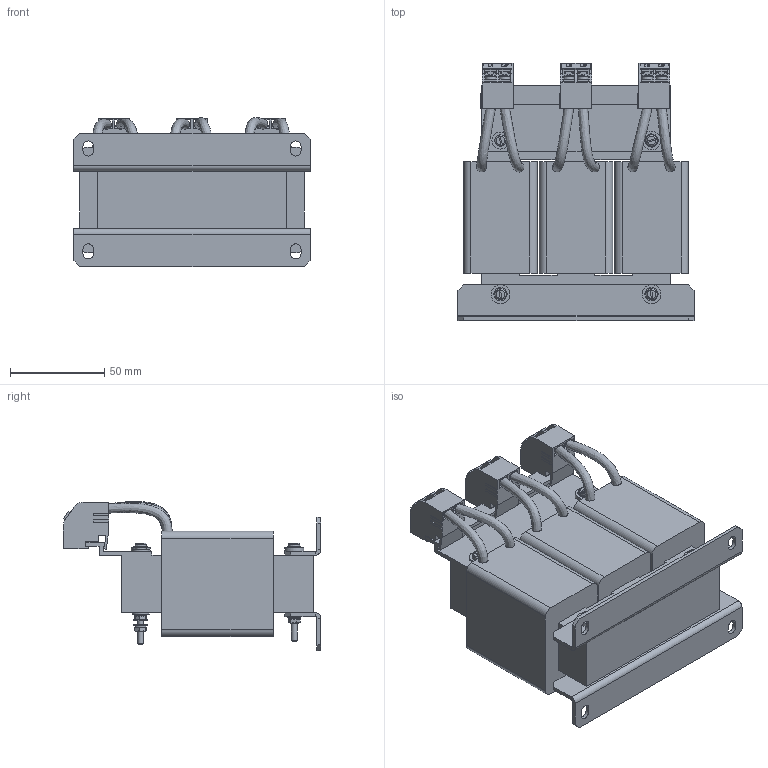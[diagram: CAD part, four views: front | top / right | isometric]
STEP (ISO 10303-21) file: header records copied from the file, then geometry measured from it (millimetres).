
FILE_DESCRIPTION(/* description */ ('raw material description'),/* implementation_level */ '2;1');
FILE_NAME(/* name */ 'P:\Construction\Filter_Marketing\RWK\RWK3044_RWK3062\RWK3044-12-88-E0XXX.stp',/* time_stamp */ '2018-08-27T09:50:58+02:00',/* author */ ('Erika.Jenzer'),/* organization */ ('Schaffner EMV AG'),/* preprocessor_version */ 'ST-DEVELOPER v16.5',/* originating_system */ 'Autodesk Inventor 2017',/* authorisation */ '');
FILE_SCHEMA (('AUTOMOTIVE_DESIGN { 1 0 10303 214 3 1 1 }'));
Products named in the file (1): RWK3044-12-88-E0XXX
Bounding box: 125 x 136.35 x 78.91 mm (x, y, z)
Volume: 556219.4 mm3; surface area: 101458.2 mm2
Topology: 1 solids, 9 shells, 1762 faces, 4876 edges, 3166 vertices
Faces by surface type: plane 1429, cylinder 188, bspline 62, cone 39, sphere 24, torus 20
Full cylindrical faces by diameter (mm): 3 x19, 3.1 x4, 3.2 x10, 3.4 x1, 4.2 x3, 4.5 x5, 5.7 x6, 6 x1, 7 x8, 9 x2, 10 x3, 13 x1
Entity records: 60136 total; most frequent: CARTESIAN_POINT 13719, ORIENTED_EDGE 9412, DIRECTION 8928, EDGE_CURVE 4706, LINE 3436, VECTOR 3436, VERTEX_POINT 3110, AXIS2_PLACEMENT_3D 2746
